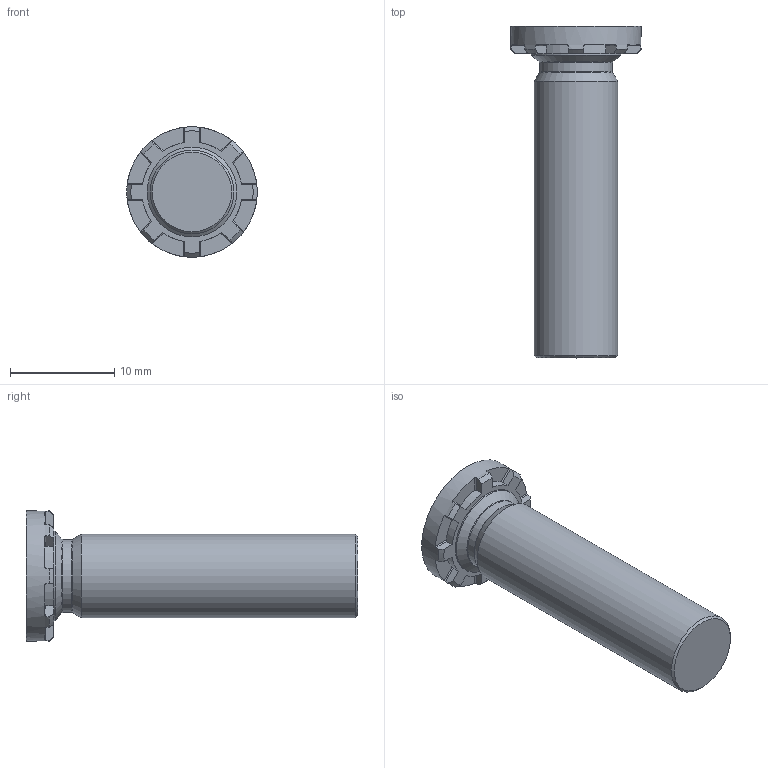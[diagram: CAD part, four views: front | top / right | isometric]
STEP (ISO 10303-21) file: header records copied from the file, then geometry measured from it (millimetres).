
FILE_DESCRIPTION(/* description */ (''),/* implementation_level */ '2;1');
FILE_NAME(/* name */ 'C:\Users\keval.kumar\Desktop\Fastit\Clinch Screw- HFH Range\M8\Clinch Screw-HFH Range_M8x30.stp',/* time_stamp */ '2024-03-12T15:20:48+06:00',/* author */ ('keval.kumar'),/* organization */ (''),/* preprocessor_version */ 'ST-DEVELOPER v18.1',/* originating_system */ 'Autodesk Inventor 2022',/* authorisation */ '');
FILE_SCHEMA (('AUTOMOTIVE_DESIGN { 1 0 10303 214 3 1 1 }'));
Length unit declared in the file: millimetre
Products named in the file (1): Clinch Screw-HFH Range_M8x30
Bounding box: 12.5 x 31.78 x 12.5 mm (x, y, z)
Volume: 1741.4 mm3; surface area: 1084.9 mm2
Topology: 1 solids, 1 shells, 68 faces, 193 edges, 128 vertices
Faces by surface type: plane 43, cylinder 12, cone 11, torus 2
Full cylindrical faces by diameter (mm): 7 x1, 8 x1, 8.6 x1, 12.5 x1
Entity records: 2278 total; most frequent: CARTESIAN_POINT 422, DIRECTION 405, ORIENTED_EDGE 386, EDGE_CURVE 193, AXIS2_PLACEMENT_3D 159, VERTEX_POINT 128, LINE 87, VECTOR 87
